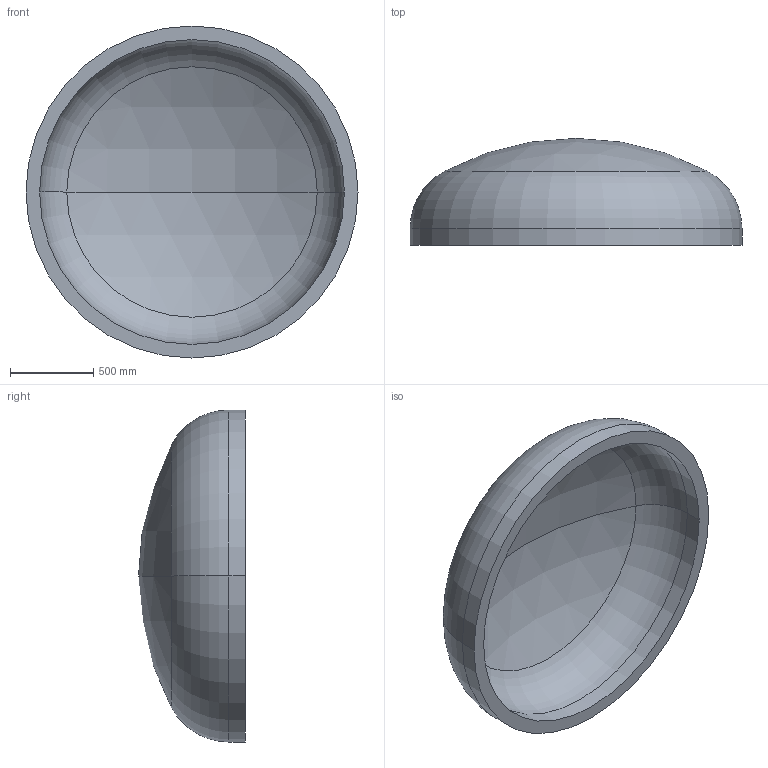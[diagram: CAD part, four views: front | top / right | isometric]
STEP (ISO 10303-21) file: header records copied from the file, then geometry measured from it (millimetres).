
FILE_DESCRIPTION (( 'STEP AP203' ), '1' );
FILE_NAME ('DIN 28013 Korbbogenform_-_Boden DIN 28013 - 2000 x 100 - I - s=82.step', '2016-07-01T14:04:52', ( '' ), ( '' ), 'SwSTEP 2.0', 'SolidWorks 2013', '' );
FILE_SCHEMA (( 'CONFIG_CONTROL_DESIGN' ));
Length unit declared in the file: millimetre
Products named in the file (1): DIN 28013 Korbbogenform_-_Boden DIN 28013 - 2000 x 100 - I - s=82
Bounding box: 2000 x 644.27 x 2000 mm (x, y, z)
Volume: 388198797.7 mm3; surface area: 9976440.5 mm2
Topology: 1 solids, 1 shells, 13 faces, 24 edges, 14 vertices
Faces by surface type: torus 4, cylinder 4, sphere 4, plane 1
Entity records: 407 total; most frequent: DIRECTION 72, CARTESIAN_POINT 52, ORIENTED_EDGE 48, AXIS2_PLACEMENT_3D 34, EDGE_CURVE 24, CIRCLE 20, VERTEX_POINT 14, EDGE_LOOP 14
